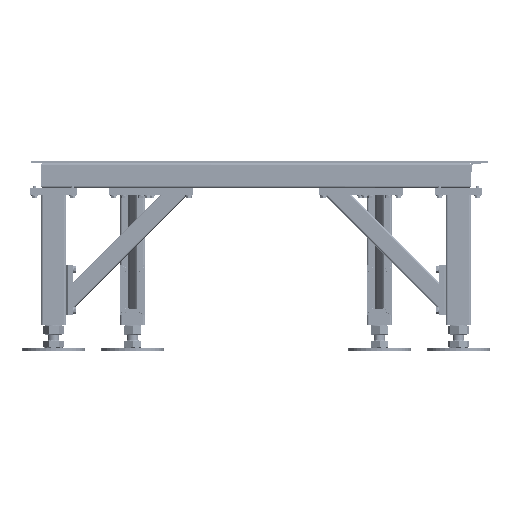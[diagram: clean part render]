
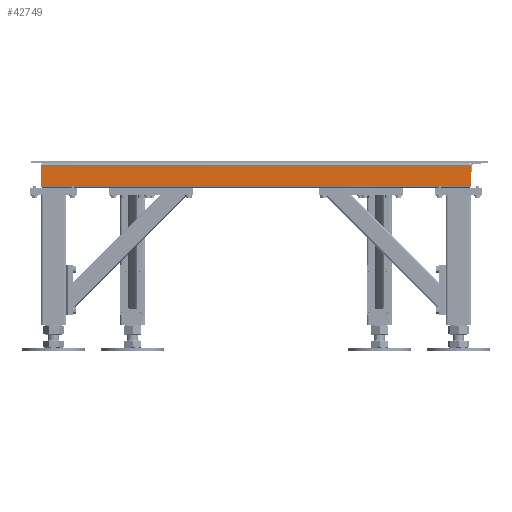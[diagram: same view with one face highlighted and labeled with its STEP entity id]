
A CAD part, front view. The second image highlights one B-rep face of the part: STEP entity #42749.
In plain terms, the highlighted planar face has unit normal (0, -1, 0).
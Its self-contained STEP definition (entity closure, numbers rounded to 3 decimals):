
#702 = DIRECTION ( 'NONE',  ( 0., 1., 0. ) ) ;
#1530 = VERTEX_POINT ( 'NONE', #28316 ) ;
#2260 = EDGE_CURVE ( 'NONE', #8623, #19639, #38487, .T. ) ;
#4307 = DIRECTION ( 'NONE',  ( -1., 0., 0. ) ) ;
#5854 = EDGE_CURVE ( 'NONE', #16802, #19639, #32075, .T. ) ;
#7291 = LINE ( 'NONE', #41635, #31880 ) ;
#8623 = VERTEX_POINT ( 'NONE', #31304 ) ;
#8739 = VECTOR ( 'NONE', #14171, 1000. ) ;
#9734 = AXIS2_PLACEMENT_3D ( 'NONE', #43420, #702, #18782 ) ;
#10121 = CARTESIAN_POINT ( 'NONE',  ( 13604.999, 86798.67, -32. ) ) ;
#10278 = ORIENTED_EDGE ( 'NONE', *, *, #27795, .F. ) ;
#11192 = CARTESIAN_POINT ( 'NONE',  ( 13564.999, 86798.67, 32. ) ) ;
#11340 = ORIENTED_EDGE ( 'NONE', *, *, #2260, .T. ) ;
#12465 = DIRECTION ( 'NONE',  ( 0., 0., 1. ) ) ;
#13918 = VECTOR ( 'NONE', #4307, 1000. ) ;
#14171 = DIRECTION ( 'NONE',  ( 0., 0., -1. ) ) ;
#15177 = EDGE_CURVE ( 'NONE', #8623, #1530, #41641, .T. ) ;
#16802 = VERTEX_POINT ( 'NONE', #26277 ) ;
#18782 = DIRECTION ( 'NONE',  ( 0., 0., 1. ) ) ;
#19639 = VERTEX_POINT ( 'NONE', #29553 ) ;
#24829 = VECTOR ( 'NONE', #12465, 1000. ) ;
#26277 = CARTESIAN_POINT ( 'NONE',  ( 12244.999, 86798.67, -32. ) ) ;
#27061 = ORIENTED_EDGE ( 'NONE', *, *, #15177, .F. ) ;
#27795 = EDGE_CURVE ( 'NONE', #1530, #16802, #7291, .T. ) ;
#28316 = CARTESIAN_POINT ( 'NONE',  ( 13604.999, 86798.67, -32. ) ) ;
#29064 = PLANE ( 'NONE',  #9734 ) ;
#29553 = CARTESIAN_POINT ( 'NONE',  ( 12244.999, 86798.67, 32. ) ) ;
#31164 = DIRECTION ( 'NONE',  ( -1., 0., 0. ) ) ;
#31304 = CARTESIAN_POINT ( 'NONE',  ( 13604.999, 86798.67, 32. ) ) ;
#31880 = VECTOR ( 'NONE', #31164, 1000. ) ;
#32075 = LINE ( 'NONE', #34121, #24829 ) ;
#34121 = CARTESIAN_POINT ( 'NONE',  ( 12244.999, 86798.67, -32. ) ) ;
#38487 = LINE ( 'NONE', #11192, #13918 ) ;
#39776 = FACE_OUTER_BOUND ( 'NONE', #40807, .T. ) ;
#40076 = ORIENTED_EDGE ( 'NONE', *, *, #5854, .F. ) ;
#40807 = EDGE_LOOP ( 'NONE', ( #40076, #10278, #27061, #11340 ) ) ;
#41635 = CARTESIAN_POINT ( 'NONE',  ( 13564.999, 86798.67, -32. ) ) ;
#41641 = LINE ( 'NONE', #10121, #8739 ) ;
#42749 = ADVANCED_FACE ( 'NONE', ( #39776 ), #29064, .F. ) ;
#43420 = CARTESIAN_POINT ( 'NONE',  ( 13564.999, 86798.67, -32. ) ) ;
